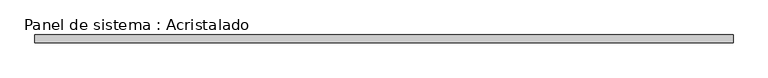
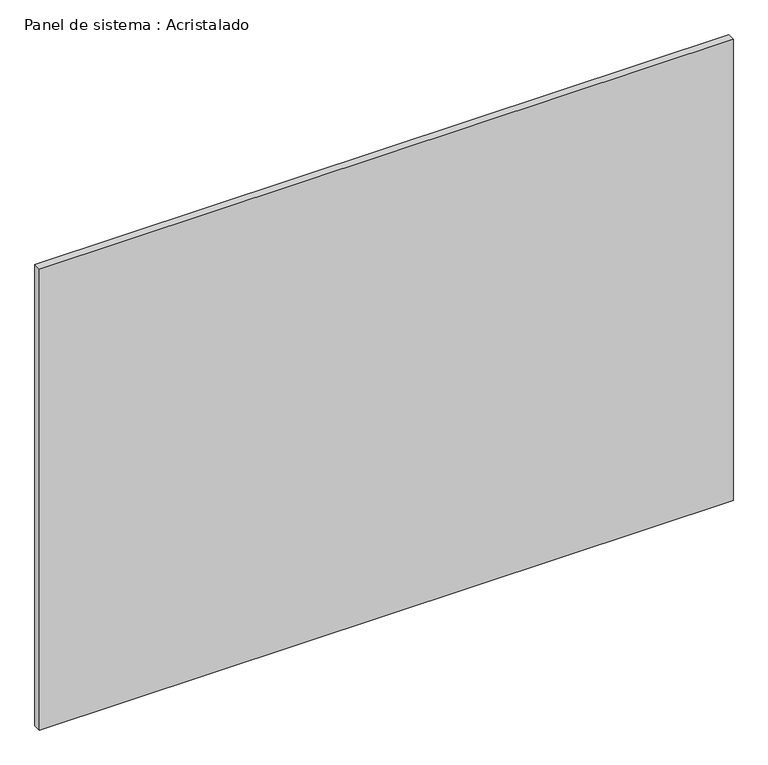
"""IFC4 building model written with IfcOpenShell, lengths in millimetres: plate geometry, Panel de sistema : Acristalado."""

from ifc_helpers import new_model, si_unit, origin, origin_with_axes, place, context, project, spatial, polyline, outline, extrude, source, transform, mapped, element, save


def panel_de_sistema_acristalado_13ae242c(model_context):
    return source(origin(), model_context, "Body", "SweptSolid", [
        extrude(outline(polyline([(913.6169022, -10.0), (-913.6169022, -10.0), (-913.6169022, 10.0), (913.6169022, 10.0), (913.6169022, -10.0)])), origin_with_axes(), (0.0, 0.0, 1.0), 1285.0),
    ])


if __name__ == "__main__":
    model = new_model("IFC4")
    model_context = context("Model", 3, world=origin())
    ifc_project = project(units=[si_unit("LENGTHUNIT", "METRE", prefix="MILLI")], contexts=[model_context])
    site = spatial("IfcSite", under=ifc_project)
    building = spatial("IfcBuilding", under=site)
    placement = place(None, origin())
    panel_de_sistema_acristalado_shape = panel_de_sistema_acristalado_13ae242c(model_context)
    element("IfcPlate", 1, ObjectType="Panel de sistema : Acristalado", at=placement, inside=building, context=model_context, shape_type="MappedRepresentation", body=[
        mapped(panel_de_sistema_acristalado_shape, transform((0.0, 0.0, 0.0), x_axis=(1.0, 0.0, 0.0), y_axis=(0.0, 1.0, 0.0), z_axis=(0.0, 0.0, 1.0))),
    ])
    save(model, "model.ifc")
